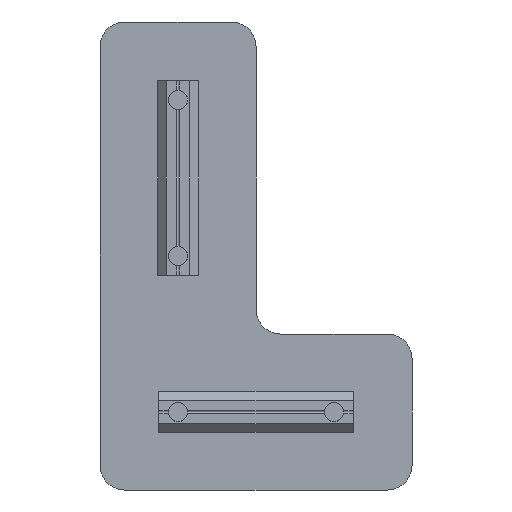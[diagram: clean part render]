
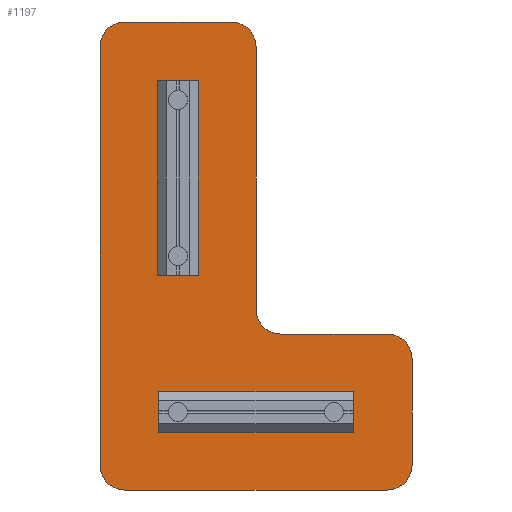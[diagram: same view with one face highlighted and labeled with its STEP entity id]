
A CAD part, front view. The second image highlights one B-rep face of the part: STEP entity #1197.
In plain terms, the highlighted planar face has unit normal (0, -1, 0).
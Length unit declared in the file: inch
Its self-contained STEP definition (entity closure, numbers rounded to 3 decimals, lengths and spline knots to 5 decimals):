
#93=FACE_BOUND('',#201,.T.);
#94=FACE_BOUND('',#202,.T.);
#95=FACE_BOUND('',#203,.T.);
#96=FACE_BOUND('',#204,.T.);
#103=PLANE('',#1351);
#139=FACE_OUTER_BOUND('',#200,.T.);
#200=EDGE_LOOP('',(#801,#802,#803,#804,#805,#806,#807,#808,#809,#810,#811,
#812));
#201=EDGE_LOOP('',(#813));
#202=EDGE_LOOP('',(#814));
#203=EDGE_LOOP('',(#815));
#204=EDGE_LOOP('',(#816));
#272=LINE('',#1885,#360);
#273=LINE('',#1889,#361);
#274=LINE('',#1893,#362);
#275=LINE('',#1897,#363);
#276=LINE('',#1901,#364);
#277=LINE('',#1904,#365);
#360=VECTOR('',#1518,0.3937);
#361=VECTOR('',#1521,0.3937);
#362=VECTOR('',#1524,0.3937);
#363=VECTOR('',#1527,0.3937);
#364=VECTOR('',#1530,0.3937);
#365=VECTOR('',#1533,0.3937);
#443=CIRCLE('',#1338,0.13);
#445=CIRCLE('',#1341,0.13);
#447=CIRCLE('',#1344,0.13);
#449=CIRCLE('',#1347,0.13);
#451=CIRCLE('',#1350,0.25);
#452=CIRCLE('',#1352,0.25);
#453=CIRCLE('',#1353,0.25);
#454=CIRCLE('',#1354,0.25);
#455=CIRCLE('',#1355,0.25);
#456=CIRCLE('',#1356,0.25);
#503=VERTEX_POINT('',#1853);
#505=VERTEX_POINT('',#1859);
#507=VERTEX_POINT('',#1865);
#509=VERTEX_POINT('',#1871);
#512=VERTEX_POINT('',#1878);
#513=VERTEX_POINT('',#1880);
#514=VERTEX_POINT('',#1884);
#515=VERTEX_POINT('',#1886);
#516=VERTEX_POINT('',#1888);
#517=VERTEX_POINT('',#1890);
#518=VERTEX_POINT('',#1892);
#519=VERTEX_POINT('',#1894);
#520=VERTEX_POINT('',#1896);
#521=VERTEX_POINT('',#1898);
#522=VERTEX_POINT('',#1900);
#523=VERTEX_POINT('',#1902);
#616=EDGE_CURVE('',#503,#503,#443,.T.);
#619=EDGE_CURVE('',#505,#505,#445,.T.);
#622=EDGE_CURVE('',#507,#507,#447,.T.);
#625=EDGE_CURVE('',#509,#509,#449,.T.);
#628=EDGE_CURVE('',#513,#512,#451,.T.);
#630=EDGE_CURVE('',#514,#512,#272,.T.);
#631=EDGE_CURVE('',#514,#515,#452,.T.);
#632=EDGE_CURVE('',#516,#515,#273,.T.);
#633=EDGE_CURVE('',#516,#517,#453,.T.);
#634=EDGE_CURVE('',#518,#517,#274,.T.);
#635=EDGE_CURVE('',#518,#519,#454,.T.);
#636=EDGE_CURVE('',#520,#519,#275,.T.);
#637=EDGE_CURVE('',#520,#521,#455,.T.);
#638=EDGE_CURVE('',#522,#521,#276,.T.);
#639=EDGE_CURVE('',#522,#523,#456,.T.);
#640=EDGE_CURVE('',#513,#523,#277,.T.);
#801=ORIENTED_EDGE('',*,*,#628,.T.);
#802=ORIENTED_EDGE('',*,*,#630,.F.);
#803=ORIENTED_EDGE('',*,*,#631,.T.);
#804=ORIENTED_EDGE('',*,*,#632,.F.);
#805=ORIENTED_EDGE('',*,*,#633,.T.);
#806=ORIENTED_EDGE('',*,*,#634,.F.);
#807=ORIENTED_EDGE('',*,*,#635,.T.);
#808=ORIENTED_EDGE('',*,*,#636,.F.);
#809=ORIENTED_EDGE('',*,*,#637,.T.);
#810=ORIENTED_EDGE('',*,*,#638,.F.);
#811=ORIENTED_EDGE('',*,*,#639,.T.);
#812=ORIENTED_EDGE('',*,*,#640,.F.);
#813=ORIENTED_EDGE('',*,*,#616,.F.);
#814=ORIENTED_EDGE('',*,*,#619,.F.);
#815=ORIENTED_EDGE('',*,*,#622,.F.);
#816=ORIENTED_EDGE('',*,*,#625,.F.);
#1197=ADVANCED_FACE('',(#139,#93,#94,#95,#96),#103,.F.);
#1338=AXIS2_PLACEMENT_3D('',#1855,#1485,#1486);
#1341=AXIS2_PLACEMENT_3D('',#1861,#1492,#1493);
#1344=AXIS2_PLACEMENT_3D('',#1867,#1499,#1500);
#1347=AXIS2_PLACEMENT_3D('',#1873,#1506,#1507);
#1350=AXIS2_PLACEMENT_3D('',#1881,#1513,#1514);
#1351=AXIS2_PLACEMENT_3D('',#1883,#1516,#1517);
#1352=AXIS2_PLACEMENT_3D('',#1887,#1519,#1520);
#1353=AXIS2_PLACEMENT_3D('',#1891,#1522,#1523);
#1354=AXIS2_PLACEMENT_3D('',#1895,#1525,#1526);
#1355=AXIS2_PLACEMENT_3D('',#1899,#1528,#1529);
#1356=AXIS2_PLACEMENT_3D('',#1903,#1531,#1532);
#1485=DIRECTION('center_axis',(0.,-1.,0.));
#1486=DIRECTION('ref_axis',(1.,0.,0.));
#1492=DIRECTION('center_axis',(0.,-1.,0.));
#1493=DIRECTION('ref_axis',(1.,0.,0.));
#1499=DIRECTION('center_axis',(0.,-1.,0.));
#1500=DIRECTION('ref_axis',(1.,0.,0.));
#1506=DIRECTION('center_axis',(0.,-1.,0.));
#1507=DIRECTION('ref_axis',(1.,0.,0.));
#1513=DIRECTION('center_axis',(0.,-1.,0.));
#1514=DIRECTION('ref_axis',(-0.707,0.,-0.707));
#1516=DIRECTION('center_axis',(0.,1.,0.));
#1517=DIRECTION('ref_axis',(0.,0.,1.));
#1518=DIRECTION('',(-1.,0.,0.));
#1519=DIRECTION('center_axis',(0.,-1.,0.));
#1520=DIRECTION('ref_axis',(0.707,0.,-0.707));
#1521=DIRECTION('',(0.,0.,-1.));
#1522=DIRECTION('center_axis',(0.,-1.,0.));
#1523=DIRECTION('ref_axis',(0.707,0.,0.707));
#1524=DIRECTION('',(1.,0.,0.));
#1525=DIRECTION('center_axis',(0.,1.,0.));
#1526=DIRECTION('ref_axis',(-0.707,0.,-0.707));
#1527=DIRECTION('',(0.,0.,-1.));
#1528=DIRECTION('center_axis',(0.,-1.,0.));
#1529=DIRECTION('ref_axis',(0.707,0.,0.707));
#1530=DIRECTION('',(1.,0.,0.));
#1531=DIRECTION('center_axis',(0.,-1.,0.));
#1532=DIRECTION('ref_axis',(-0.707,0.,0.707));
#1533=DIRECTION('',(0.,0.,1.));
#1853=CARTESIAN_POINT('',(-0.13,-0.125,0.));
#1855=CARTESIAN_POINT('Origin',(0.,-0.125,0.));
#1859=CARTESIAN_POINT('',(-0.13,-0.125,3.14961));
#1861=CARTESIAN_POINT('Origin',(0.,-0.125,3.14961));
#1865=CARTESIAN_POINT('',(-0.13,-0.125,1.5748));
#1867=CARTESIAN_POINT('Origin',(0.,-0.125,1.5748));
#1871=CARTESIAN_POINT('',(1.4448,-0.125,0.));
#1873=CARTESIAN_POINT('Origin',(1.5748,-0.125,0.));
#1878=CARTESIAN_POINT('',(-0.5374,-0.125,-0.7874));
#1880=CARTESIAN_POINT('',(-0.7874,-0.125,-0.5374));
#1881=CARTESIAN_POINT('Origin',(-0.5374,-0.125,-0.5374));
#1883=CARTESIAN_POINT('Origin',(0.47244,-0.125,1.25984));
#1884=CARTESIAN_POINT('',(2.1122,-0.125,-0.7874));
#1885=CARTESIAN_POINT('',(-0.7874,-0.125,-0.7874));
#1886=CARTESIAN_POINT('',(2.3622,-0.125,-0.5374));
#1887=CARTESIAN_POINT('Origin',(2.1122,-0.125,-0.5374));
#1888=CARTESIAN_POINT('',(2.3622,-0.125,0.5374));
#1889=CARTESIAN_POINT('',(2.3622,-0.125,-0.7874));
#1890=CARTESIAN_POINT('',(2.1122,-0.125,0.7874));
#1891=CARTESIAN_POINT('Origin',(2.1122,-0.125,0.5374));
#1892=CARTESIAN_POINT('',(1.0374,-0.125,0.7874));
#1893=CARTESIAN_POINT('',(2.3622,-0.125,0.7874));
#1894=CARTESIAN_POINT('',(0.7874,-0.125,1.0374));
#1895=CARTESIAN_POINT('Origin',(1.0374,-0.125,1.0374));
#1896=CARTESIAN_POINT('',(0.7874,-0.125,3.68701));
#1897=CARTESIAN_POINT('',(0.7874,-0.125,0.7874));
#1898=CARTESIAN_POINT('',(0.5374,-0.125,3.93701));
#1899=CARTESIAN_POINT('Origin',(0.5374,-0.125,3.68701));
#1900=CARTESIAN_POINT('',(-0.5374,-0.125,3.93701));
#1901=CARTESIAN_POINT('',(0.7874,-0.125,3.93701));
#1902=CARTESIAN_POINT('',(-0.7874,-0.125,3.68701));
#1903=CARTESIAN_POINT('Origin',(-0.5374,-0.125,3.68701));
#1904=CARTESIAN_POINT('',(-0.7874,-0.125,3.93701));
